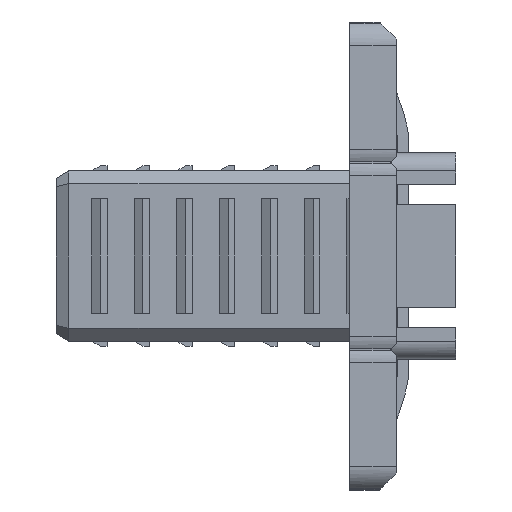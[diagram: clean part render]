
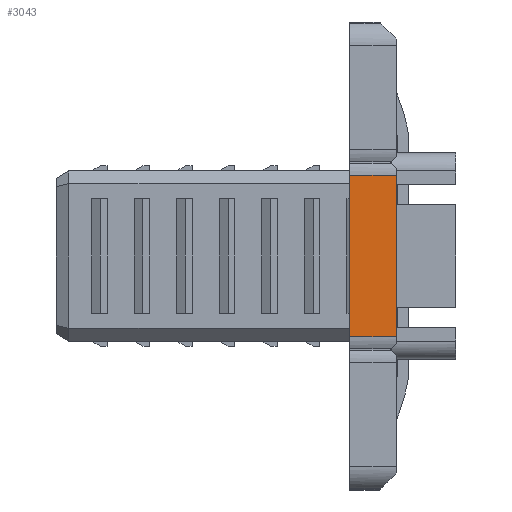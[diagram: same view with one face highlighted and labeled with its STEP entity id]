
A CAD part, left-side view. The second image highlights one B-rep face of the part: STEP entity #3043.
In plain terms, the highlighted planar face has unit normal (-1, 0, 0).
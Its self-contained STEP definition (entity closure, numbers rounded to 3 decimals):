
#148 = DIRECTION ( 'NONE',  ( 0., -1., 0. ) ) ;
#166 = VECTOR ( 'NONE', #5009, 1000. ) ;
#213 = CARTESIAN_POINT ( 'NONE',  ( -12.5, 2., 27.5 ) ) ;
#708 = VERTEX_POINT ( 'NONE', #3505 ) ;
#738 = CARTESIAN_POINT ( 'NONE',  ( -12.5, -7., -9.5 ) ) ;
#883 = CARTESIAN_POINT ( 'NONE',  ( -12.5, 7.5, 27.5 ) ) ;
#969 = EDGE_LOOP ( 'NONE', ( #7219, #5426, #7479, #6606 ) ) ;
#1211 = VERTEX_POINT ( 'NONE', #1754 ) ;
#1524 = AXIS2_PLACEMENT_3D ( 'NONE', #5165, #5806, #3689 ) ;
#1555 = VERTEX_POINT ( 'NONE', #2201 ) ;
#1754 = CARTESIAN_POINT ( 'NONE',  ( -12.5, 2., -9.5 ) ) ;
#2061 = FACE_OUTER_BOUND ( 'NONE', #969, .T. ) ;
#2201 = CARTESIAN_POINT ( 'NONE',  ( -12.5, 7.5, 9.5 ) ) ;
#2295 = PLANE ( 'NONE',  #1524 ) ;
#2890 = DIRECTION ( 'NONE',  ( 0., 1., 0. ) ) ;
#2892 = EDGE_CURVE ( 'NONE', #1211, #8603, #4140, .T. ) ;
#3037 = DIRECTION ( 'NONE',  ( 0., 0., -1. ) ) ;
#3043 = ADVANCED_FACE ( 'NONE', ( #2061 ), #2295, .F. ) ;
#3505 = CARTESIAN_POINT ( 'NONE',  ( -12.5, 2., 9.5 ) ) ;
#3654 = CARTESIAN_POINT ( 'NONE',  ( -12.5, -7., 9.5 ) ) ;
#3680 = EDGE_CURVE ( 'NONE', #1555, #8603, #7591, .T. ) ;
#3685 = VECTOR ( 'NONE', #3037, 1000. ) ;
#3689 = DIRECTION ( 'NONE',  ( 0., 0., -1. ) ) ;
#4060 = CARTESIAN_POINT ( 'NONE',  ( -12.5, 7.5, -9.5 ) ) ;
#4140 = LINE ( 'NONE', #738, #4567 ) ;
#4567 = VECTOR ( 'NONE', #2890, 1000. ) ;
#5009 = DIRECTION ( 'NONE',  ( 0., 0., -1. ) ) ;
#5082 = LINE ( 'NONE', #213, #166 ) ;
#5165 = CARTESIAN_POINT ( 'NONE',  ( -12.5, -7., 27.5 ) ) ;
#5267 = EDGE_CURVE ( 'NONE', #1555, #708, #9025, .T. ) ;
#5426 = ORIENTED_EDGE ( 'NONE', *, *, #5267, .F. ) ;
#5668 = EDGE_CURVE ( 'NONE', #708, #1211, #5082, .T. ) ;
#5806 = DIRECTION ( 'NONE',  ( 1., 0., 0. ) ) ;
#6606 = ORIENTED_EDGE ( 'NONE', *, *, #2892, .F. ) ;
#7219 = ORIENTED_EDGE ( 'NONE', *, *, #5668, .F. ) ;
#7479 = ORIENTED_EDGE ( 'NONE', *, *, #3680, .T. ) ;
#7591 = LINE ( 'NONE', #883, #3685 ) ;
#8603 = VERTEX_POINT ( 'NONE', #4060 ) ;
#8704 = VECTOR ( 'NONE', #148, 1000. ) ;
#9025 = LINE ( 'NONE', #3654, #8704 ) ;
